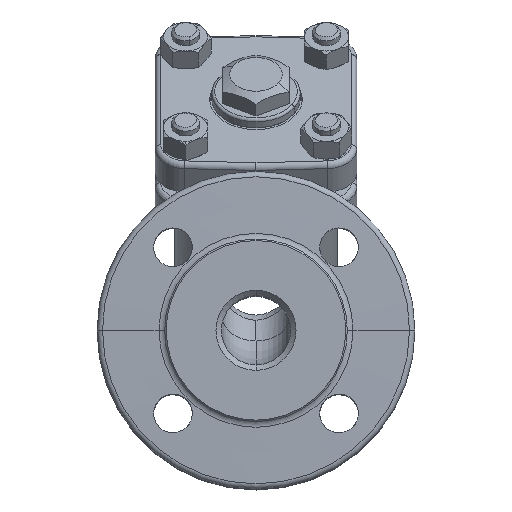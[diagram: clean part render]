
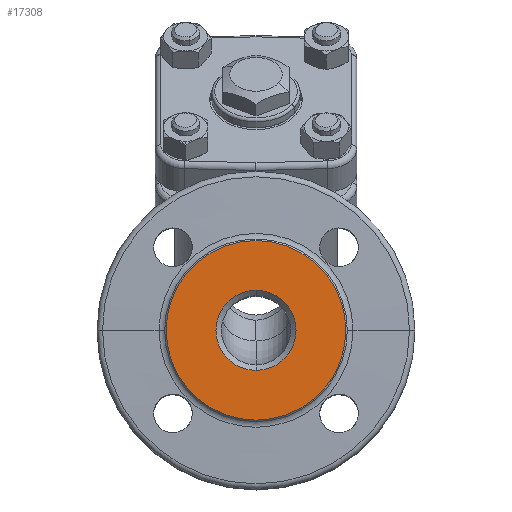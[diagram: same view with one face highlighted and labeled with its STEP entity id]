
A CAD part, top view. The second image highlights one B-rep face of the part: STEP entity #17308.
In plain terms, the highlighted planar face has unit normal (0, 0, 1).
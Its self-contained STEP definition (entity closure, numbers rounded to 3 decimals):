
#1689 = CIRCLE ( 'NONE', #19679, 14.5 ) ;
#1808 = CIRCLE ( 'NONE', #19726, 32.5 ) ;
#1936 = CIRCLE ( 'NONE', #19801, 14.5 ) ;
#1939 = CIRCLE ( 'NONE', #19805, 32.5 ) ;
#2730 = CARTESIAN_POINT ( 'NONE',  ( 0., 0., 160. ) ) ;
#2733 = DIRECTION ( 'NONE',  ( 0., 0., -1. ) ) ;
#2734 = DIRECTION ( 'NONE',  ( 1., 0., 0. ) ) ;
#3389 = CARTESIAN_POINT ( 'NONE',  ( 0., 0., 160. ) ) ;
#3403 = DIRECTION ( 'NONE',  ( 0., 0., -1. ) ) ;
#3404 = DIRECTION ( 'NONE',  ( -1., 0., 0. ) ) ;
#4907 = CARTESIAN_POINT ( 'NONE',  ( 0., 0., 160. ) ) ;
#4919 = DIRECTION ( 'NONE',  ( 0., 0., -1. ) ) ;
#4920 = DIRECTION ( 'NONE',  ( 1., 0., 0. ) ) ;
#5941 = CARTESIAN_POINT ( 'NONE',  ( 0., 0., 160. ) ) ;
#5942 = DIRECTION ( 'NONE',  ( 0., 0., -1. ) ) ;
#5943 = DIRECTION ( 'NONE',  ( -1., 0., 0. ) ) ;
#8586 = FACE_BOUND ( 'NONE', #30847, .T. ) ;
#8593 = FACE_OUTER_BOUND ( 'NONE', #30855, .T. ) ;
#9353 = VERTEX_POINT ( 'NONE', #21756 ) ;
#10137 = VERTEX_POINT ( 'NONE', #13055 ) ;
#13055 = CARTESIAN_POINT ( 'NONE',  ( 0., -14.5, 160. ) ) ;
#16317 = VERTEX_POINT ( 'NONE', #18250 ) ;
#16322 = VERTEX_POINT ( 'NONE', #18258 ) ;
#16577 = ORIENTED_EDGE ( 'NONE', *, *, #36249, .T. ) ;
#16578 = ORIENTED_EDGE ( 'NONE', *, *, #36880, .T. ) ;
#16579 = ORIENTED_EDGE ( 'NONE', *, *, #36484, .F. ) ;
#16580 = ORIENTED_EDGE ( 'NONE', *, *, #36889, .F. ) ;
#17308 = ADVANCED_FACE ( 'NONE', ( #8586, #8593 ), #34411, .T. ) ;
#18250 = CARTESIAN_POINT ( 'NONE',  ( 32.5, 0., 160. ) ) ;
#18258 = CARTESIAN_POINT ( 'NONE',  ( -32.5, 0., 160. ) ) ;
#19622 = AXIS2_PLACEMENT_3D ( 'NONE', #34414, #34420, #34421 ) ;
#19679 = AXIS2_PLACEMENT_3D ( 'NONE', #2730, #2733, #2734 ) ;
#19726 = AXIS2_PLACEMENT_3D ( 'NONE', #3389, #3403, #3404 ) ;
#19801 = AXIS2_PLACEMENT_3D ( 'NONE', #4907, #4919, #4920 ) ;
#19805 = AXIS2_PLACEMENT_3D ( 'NONE', #5941, #5942, #5943 ) ;
#21756 = CARTESIAN_POINT ( 'NONE',  ( 0., 14.5, 160. ) ) ;
#30847 = EDGE_LOOP ( 'NONE', ( #16577, #16578 ) ) ;
#30855 = EDGE_LOOP ( 'NONE', ( #16579, #16580 ) ) ;
#34411 = PLANE ( 'NONE',  #19622 ) ;
#34414 = CARTESIAN_POINT ( 'NONE',  ( 0., 0., 160. ) ) ;
#34420 = DIRECTION ( 'NONE',  ( 0., 0., 1. ) ) ;
#34421 = DIRECTION ( 'NONE',  ( 1., 0., 0. ) ) ;
#36249 = EDGE_CURVE ( 'NONE', #10137, #9353, #1689, .T. ) ;
#36484 = EDGE_CURVE ( 'NONE', #16317, #16322, #1808, .T. ) ;
#36880 = EDGE_CURVE ( 'NONE', #9353, #10137, #1936, .T. ) ;
#36889 = EDGE_CURVE ( 'NONE', #16322, #16317, #1939, .T. ) ;
